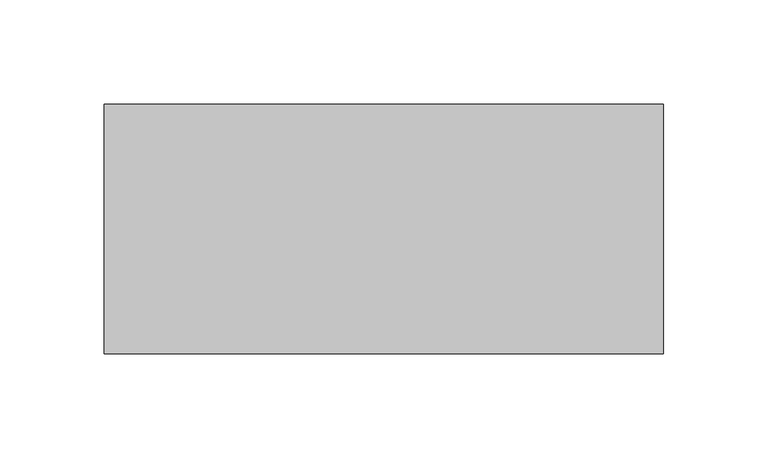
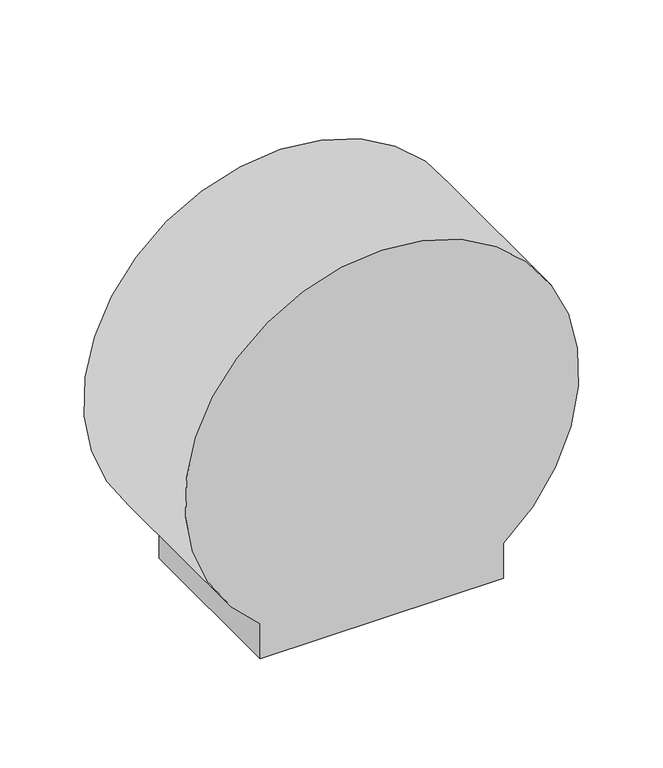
"""IFC4 building model written with IfcOpenShell, lengths in millimetres: flow terminal geometry, Portarrollo Jofel Mini AE57000 : Portarrollo Jofel Mini AE57000."""

from ifc_helpers import new_model, si_unit, point, frame, frame_2d, origin, place, context, project, spatial, polyline, circle_curve, trimmed, segment, composite_curve, outline, extrude, source, transform, mapped, element, save


def flow_terminal_7657fd55(model_context):
    return source(origin(), model_context, "Body", "SweptSolid", [
        extrude(outline(composite_curve([segment(polyline([(-106.2168285, 41.6754217), (-131.6943746, 41.6754217), (-131.6943746, 208.3245783), (-106.2168285, 208.3245783)]), True, "CONTINUOUS"), segment(trimmed(circle_curve(frame_2d((0.0, 125.0)), 135.0), [point((-106.2168285, 208.3245783))], [point((-106.2168285, 41.6754217))], False, "CARTESIAN"), True, "CONTINUOUS")], self_intersect=False)), frame((0.0, 75.0, 0.0), z_axis=(0.0, 1.0, 0.0), x_axis=(0.0, 0.0, 1.0)), (0.0, 0.0, 1.0), 120.0),
    ])


if __name__ == "__main__":
    model = new_model("IFC4")
    model_context = context("Model", 3, world=origin())
    ifc_project = project(units=[si_unit("LENGTHUNIT", "METRE", prefix="MILLI")], contexts=[model_context])
    site = spatial("IfcSite", under=ifc_project)
    building = spatial("IfcBuilding", under=site)
    placement = place(None, origin())
    flow_terminal_shape = flow_terminal_7657fd55(model_context)
    element("IfcFlowTerminal", 1, ObjectType="Portarrollo Jofel Mini AE57000 : Portarrollo Jofel Mini AE57000", at=placement, inside=building, context=model_context, shape_type="MappedRepresentation", body=[
        mapped(flow_terminal_shape, transform((0.0, 0.0, 0.0), x_axis=(1.0, 0.0, 0.0), y_axis=(0.0, 1.0, 0.0), z_axis=(0.0, 0.0, 1.0))),
    ])
    save(model, "model.ifc")
